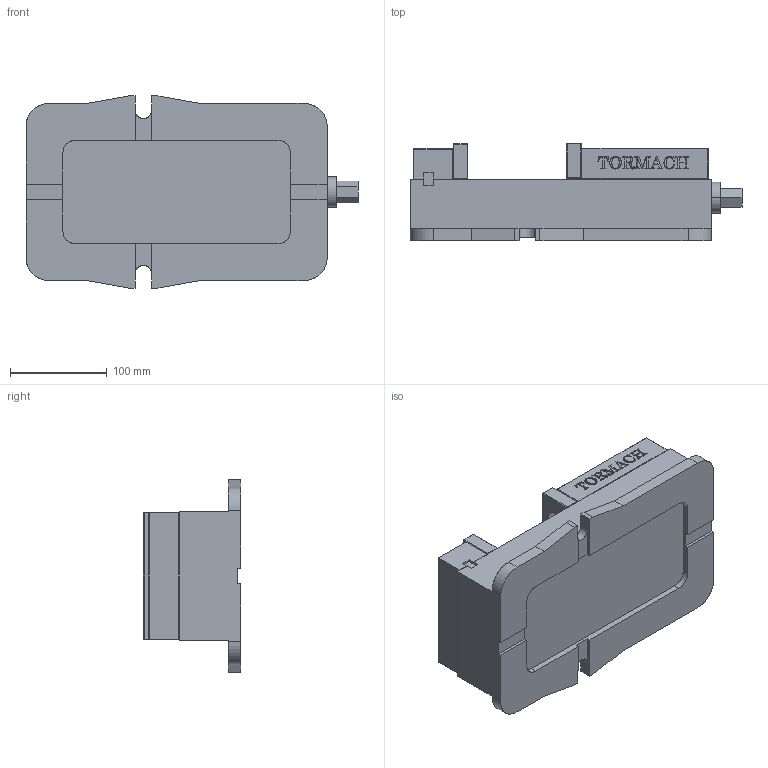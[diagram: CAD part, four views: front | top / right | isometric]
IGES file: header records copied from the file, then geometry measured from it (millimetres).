
Start section: SolidWorks IGES file using analytic representation for surfaces
Global section: file name: R:\Blog\PARTS FOR WEBSITE\30553 MACHINIST VISE 5 INCH.IGS; native system: SolidWorks 2012; preprocessor: SolidWorks 2012; author: RTooley; date: 130612.132700; units: inch
Bounding box: 342.39 x 100.58 x 198.75 mm (x, y, z)
Surface area: 283673.7 mm2 (no closed solid volume)
Topology: 0 solids, 0 shells, 533 faces, 6880 edges, 6876 vertices
Faces by surface type: bspline 496, revolution 37
